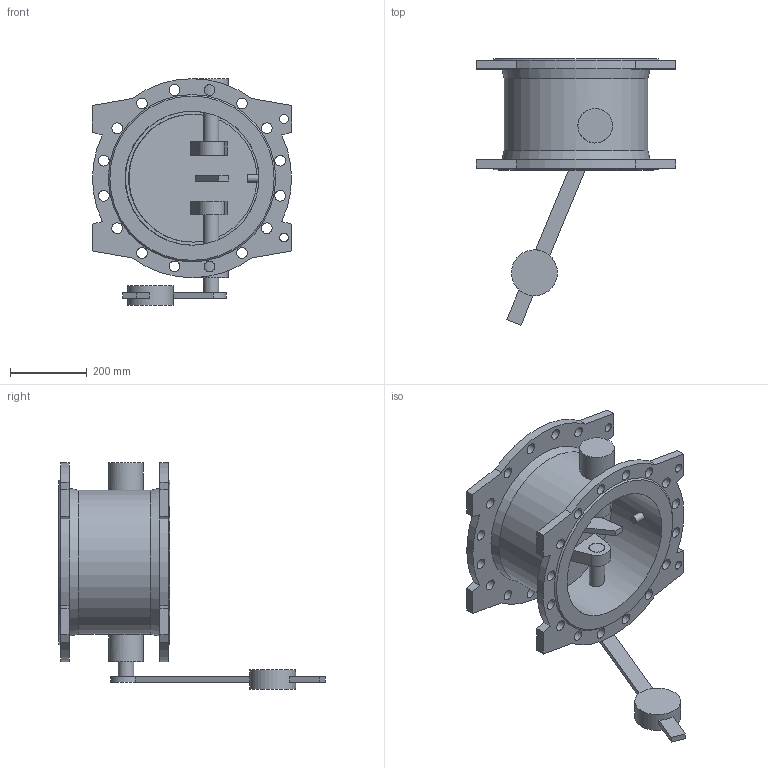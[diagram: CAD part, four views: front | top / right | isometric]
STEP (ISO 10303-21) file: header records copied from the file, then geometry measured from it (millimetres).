
FILE_DESCRIPTION(('STEP AP203'), '1');
FILE_NAME('Êëàïàí 015F.PV DN350 PN16 ñ ïðîòèâîâåñîì', '', ('UNSPECIFIED'), ('UNSPECIFIED'), 'ASCON STEP Converter 1.6', 'ASCON Math Kernel', '');
FILE_SCHEMA(('CONFIG_CONTROL_DESIGN'));
Length unit declared in the file: millimetre
Bounding box: 520 x 695 x 592 mm (x, y, z)
Volume: 13301744 mm3; surface area: 1652139.7 mm2
Topology: 1 solids, 1 shells, 128 faces, 321 edges, 213 vertices
Faces by surface type: plane 63, cylinder 58, cone 4, extrusion 2, bspline 1
Full cylindrical faces by diameter (mm): 20 x1, 23 x4, 28 x32, 40 x3, 42 x2, 90 x2, 120 x1, 350 x1, 376 x1
Entity records: 5776 total; most frequent: CARTESIAN_POINT 1608, DIRECTION 626, ORIENTED_EDGE 532, EDGE_LOOP 278, EDGE_CURVE 266, AXIS2_PLACEMENT_3D 247, VERTEX_POINT 212, FACE_BOUND 172
